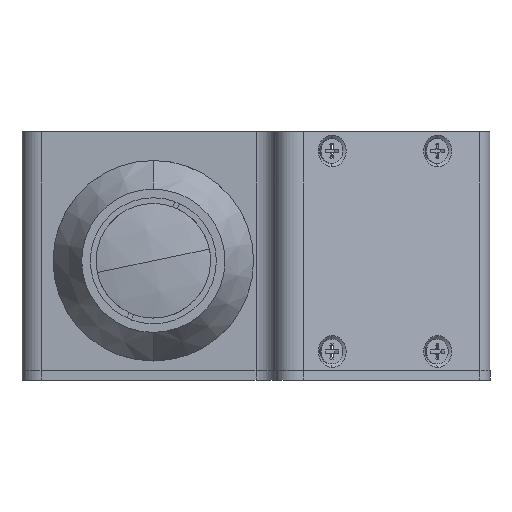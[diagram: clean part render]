
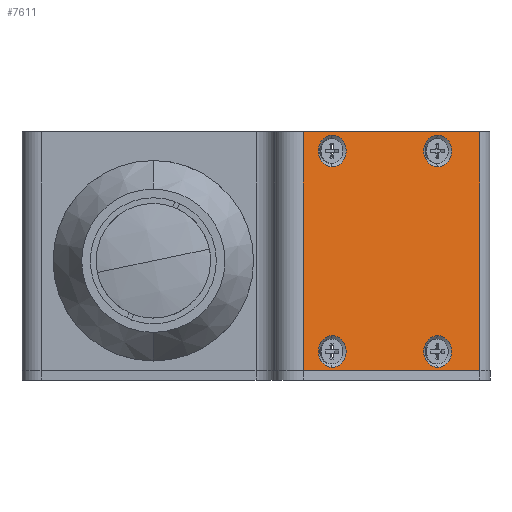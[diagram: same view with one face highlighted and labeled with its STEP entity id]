
A CAD part, left-side view. The second image highlights one B-rep face of the part: STEP entity #7611.
In plain terms, the highlighted planar face has unit normal (-0.883, -0.469, 0).
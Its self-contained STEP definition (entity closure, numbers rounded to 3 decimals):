
#18 = CARTESIAN_POINT ( 'NONE',  ( 62.94, -59.548, 19.7 ) ) ;
#291 = AXIS2_PLACEMENT_3D ( 'NONE', #7768, #874, #8914 ) ;
#434 = DIRECTION ( 'NONE',  ( -0.883, -0.469, 0. ) ) ;
#874 = DIRECTION ( 'NONE',  ( -0.883, -0.469, 0. ) ) ;
#1057 = CARTESIAN_POINT ( 'NONE',  ( 51.203, -37.475, -19. ) ) ;
#1060 = DIRECTION ( 'NONE',  ( 0., 0., 1. ) ) ;
#1126 = AXIS2_PLACEMENT_3D ( 'NONE', #6476, #14434, #7631 ) ;
#1166 = AXIS2_PLACEMENT_3D ( 'NONE', #2375, #10396, #3525 ) ;
#1167 = VECTOR ( 'NONE', #10000, 1000. ) ;
#1228 = DIRECTION ( 'NONE',  ( -0.469, 0.883, 0. ) ) ;
#1452 = FACE_BOUND ( 'NONE', #10863, .T. ) ;
#1583 = ORIENTED_EDGE ( 'NONE', *, *, #4938, .F. ) ;
#1649 = EDGE_CURVE ( 'NONE', #8045, #9165, #3150, .T. ) ;
#1815 = FACE_BOUND ( 'NONE', #12479, .T. ) ;
#1910 = LINE ( 'NONE', #6123, #10347 ) ;
#1919 = VERTEX_POINT ( 'NONE', #3675 ) ;
#2230 = DIRECTION ( 'NONE',  ( 0., 0., 1. ) ) ;
#2319 = EDGE_LOOP ( 'NONE', ( #6982, #9137, #13742, #2916 ) ) ;
#2375 = CARTESIAN_POINT ( 'NONE',  ( 51.203, -37.475, 23. ) ) ;
#2518 = EDGE_CURVE ( 'NONE', #9560, #11219, #9161, .T. ) ;
#2522 = CARTESIAN_POINT ( 'NONE',  ( 62.94, -59.548, 26.3 ) ) ;
#2600 = CARTESIAN_POINT ( 'NONE',  ( 51.203, -37.475, -22.3 ) ) ;
#2666 = DIRECTION ( 'NONE',  ( -0.883, -0.469, 0. ) ) ;
#2789 = EDGE_CURVE ( 'NONE', #12919, #7445, #5928, .T. ) ;
#2916 = ORIENTED_EDGE ( 'NONE', *, *, #14473, .T. ) ;
#2993 = DIRECTION ( 'NONE',  ( 0.469, -0.883, 0. ) ) ;
#3150 = CIRCLE ( 'NONE', #291, 3.3 ) ;
#3155 = CIRCLE ( 'NONE', #12658, 3.3 ) ;
#3206 = ORIENTED_EDGE ( 'NONE', *, *, #11802, .F. ) ;
#3418 = VECTOR ( 'NONE', #2993, 1000. ) ;
#3525 = DIRECTION ( 'NONE',  ( 0., 0., 1. ) ) ;
#3675 = CARTESIAN_POINT ( 'NONE',  ( 62.94, -59.548, -22.3 ) ) ;
#3925 = PLANE ( 'NONE',  #11081 ) ;
#3988 = DIRECTION ( 'NONE',  ( 0., 0., 1. ) ) ;
#4238 = CARTESIAN_POINT ( 'NONE',  ( 51.203, -37.475, 19.7 ) ) ;
#4532 = FACE_BOUND ( 'NONE', #4603, .T. ) ;
#4565 = DIRECTION ( 'NONE',  ( -0.883, -0.469, 0. ) ) ;
#4603 = EDGE_LOOP ( 'NONE', ( #8231, #13875 ) ) ;
#4849 = EDGE_CURVE ( 'NONE', #12919, #11219, #5336, .T. ) ;
#4898 = CARTESIAN_POINT ( 'NONE',  ( 67.635, -68.378, -23. ) ) ;
#4938 = EDGE_CURVE ( 'NONE', #9165, #8045, #3155, .T. ) ;
#5096 = VERTEX_POINT ( 'NONE', #2522 ) ;
#5336 = LINE ( 'NONE', #11151, #1167 ) ;
#5411 = CARTESIAN_POINT ( 'NONE',  ( 67.635, -68.378, 27. ) ) ;
#5643 = CIRCLE ( 'NONE', #9634, 3.3 ) ;
#5903 = EDGE_LOOP ( 'NONE', ( #13647, #8517 ) ) ;
#5928 = LINE ( 'NONE', #8128, #9688 ) ;
#6001 = EDGE_CURVE ( 'NONE', #9708, #5096, #12240, .T. ) ;
#6123 = CARTESIAN_POINT ( 'NONE',  ( 47.945, -31.348, 2. ) ) ;
#6288 = CIRCLE ( 'NONE', #6720, 3.3 ) ;
#6476 = CARTESIAN_POINT ( 'NONE',  ( 51.203, -37.475, 23. ) ) ;
#6554 = EDGE_CURVE ( 'NONE', #8866, #12618, #13123, .T. ) ;
#6720 = AXIS2_PLACEMENT_3D ( 'NONE', #9542, #2666, #10684 ) ;
#6733 = EDGE_CURVE ( 'NONE', #5096, #9708, #5643, .T. ) ;
#6982 = ORIENTED_EDGE ( 'NONE', *, *, #2789, .F. ) ;
#7327 = CARTESIAN_POINT ( 'NONE',  ( 62.94, -59.548, 23. ) ) ;
#7384 = CARTESIAN_POINT ( 'NONE',  ( 57.848, -49.971, 2. ) ) ;
#7445 = VERTEX_POINT ( 'NONE', #10450 ) ;
#7611 = ADVANCED_FACE ( 'NONE', ( #4532, #10609, #1452, #1815, #13269 ), #3925, .T. ) ;
#7631 = DIRECTION ( 'NONE',  ( 0., 0., 1. ) ) ;
#7768 = CARTESIAN_POINT ( 'NONE',  ( 51.203, -37.475, -19. ) ) ;
#7958 = DIRECTION ( 'NONE',  ( -0.883, -0.469, 0. ) ) ;
#8045 = VERTEX_POINT ( 'NONE', #2600 ) ;
#8128 = CARTESIAN_POINT ( 'NONE',  ( 70.876, -74.473, -23. ) ) ;
#8197 = AXIS2_PLACEMENT_3D ( 'NONE', #11399, #4565, #12545 ) ;
#8231 = ORIENTED_EDGE ( 'NONE', *, *, #6733, .F. ) ;
#8490 = DIRECTION ( 'NONE',  ( 0., 0., 1. ) ) ;
#8517 = ORIENTED_EDGE ( 'NONE', *, *, #12394, .F. ) ;
#8866 = VERTEX_POINT ( 'NONE', #4238 ) ;
#8914 = DIRECTION ( 'NONE',  ( 0., 0., 1. ) ) ;
#9096 = DIRECTION ( 'NONE',  ( -0.883, -0.469, 0. ) ) ;
#9137 = ORIENTED_EDGE ( 'NONE', *, *, #4849, .T. ) ;
#9161 = LINE ( 'NONE', #9875, #3418 ) ;
#9165 = VERTEX_POINT ( 'NONE', #13955 ) ;
#9310 = CIRCLE ( 'NONE', #10162, 3.3 ) ;
#9542 = CARTESIAN_POINT ( 'NONE',  ( 62.94, -59.548, -19. ) ) ;
#9560 = VERTEX_POINT ( 'NONE', #11217 ) ;
#9634 = AXIS2_PLACEMENT_3D ( 'NONE', #7327, #434, #8490 ) ;
#9688 = VECTOR ( 'NONE', #1228, 1000. ) ;
#9708 = VERTEX_POINT ( 'NONE', #18 ) ;
#9875 = CARTESIAN_POINT ( 'NONE',  ( 70.876, -74.473, 27. ) ) ;
#9936 = CARTESIAN_POINT ( 'NONE',  ( 51.203, -37.475, 26.3 ) ) ;
#10000 = DIRECTION ( 'NONE',  ( 0., 0., 1. ) ) ;
#10162 = AXIS2_PLACEMENT_3D ( 'NONE', #14743, #7958, #1060 ) ;
#10347 = VECTOR ( 'NONE', #14080, 1000. ) ;
#10396 = DIRECTION ( 'NONE',  ( -0.883, -0.469, 0. ) ) ;
#10405 = VERTEX_POINT ( 'NONE', #11143 ) ;
#10450 = CARTESIAN_POINT ( 'NONE',  ( 47.945, -31.348, -23. ) ) ;
#10609 = FACE_BOUND ( 'NONE', #5903, .T. ) ;
#10684 = DIRECTION ( 'NONE',  ( 0., 0., 1. ) ) ;
#10838 = DIRECTION ( 'NONE',  ( -0.883, -0.469, 0. ) ) ;
#10863 = EDGE_LOOP ( 'NONE', ( #1583, #11450 ) ) ;
#11081 = AXIS2_PLACEMENT_3D ( 'NONE', #7384, #10838, #3988 ) ;
#11143 = CARTESIAN_POINT ( 'NONE',  ( 62.94, -59.548, -15.7 ) ) ;
#11151 = CARTESIAN_POINT ( 'NONE',  ( 67.635, -68.378, 2. ) ) ;
#11217 = CARTESIAN_POINT ( 'NONE',  ( 47.945, -31.348, 27. ) ) ;
#11219 = VERTEX_POINT ( 'NONE', #5411 ) ;
#11335 = EDGE_CURVE ( 'NONE', #10405, #1919, #9310, .T. ) ;
#11399 = CARTESIAN_POINT ( 'NONE',  ( 62.94, -59.548, 23. ) ) ;
#11450 = ORIENTED_EDGE ( 'NONE', *, *, #1649, .F. ) ;
#11802 = EDGE_CURVE ( 'NONE', #12618, #8866, #14505, .T. ) ;
#12240 = CIRCLE ( 'NONE', #8197, 3.3 ) ;
#12394 = EDGE_CURVE ( 'NONE', #1919, #10405, #6288, .T. ) ;
#12479 = EDGE_LOOP ( 'NONE', ( #3206, #14012 ) ) ;
#12545 = DIRECTION ( 'NONE',  ( 0., 0., 1. ) ) ;
#12618 = VERTEX_POINT ( 'NONE', #9936 ) ;
#12658 = AXIS2_PLACEMENT_3D ( 'NONE', #1057, #9096, #2230 ) ;
#12919 = VERTEX_POINT ( 'NONE', #4898 ) ;
#13123 = CIRCLE ( 'NONE', #1166, 3.3 ) ;
#13269 = FACE_OUTER_BOUND ( 'NONE', #2319, .T. ) ;
#13647 = ORIENTED_EDGE ( 'NONE', *, *, #11335, .F. ) ;
#13742 = ORIENTED_EDGE ( 'NONE', *, *, #2518, .F. ) ;
#13875 = ORIENTED_EDGE ( 'NONE', *, *, #6001, .F. ) ;
#13955 = CARTESIAN_POINT ( 'NONE',  ( 51.203, -37.475, -15.7 ) ) ;
#14012 = ORIENTED_EDGE ( 'NONE', *, *, #6554, .F. ) ;
#14080 = DIRECTION ( 'NONE',  ( 0., 0., -1. ) ) ;
#14434 = DIRECTION ( 'NONE',  ( -0.883, -0.469, 0. ) ) ;
#14473 = EDGE_CURVE ( 'NONE', #9560, #7445, #1910, .T. ) ;
#14505 = CIRCLE ( 'NONE', #1126, 3.3 ) ;
#14743 = CARTESIAN_POINT ( 'NONE',  ( 62.94, -59.548, -19. ) ) ;
